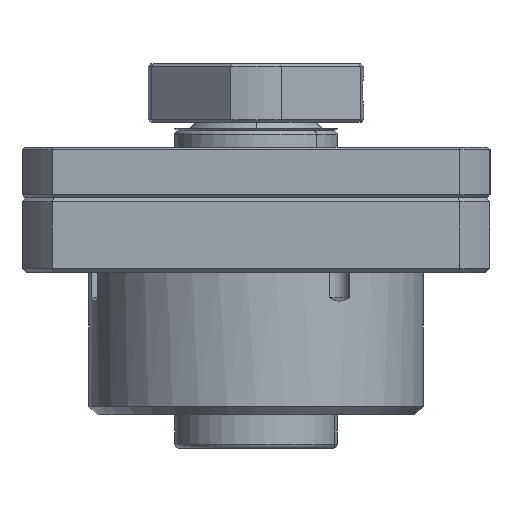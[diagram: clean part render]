
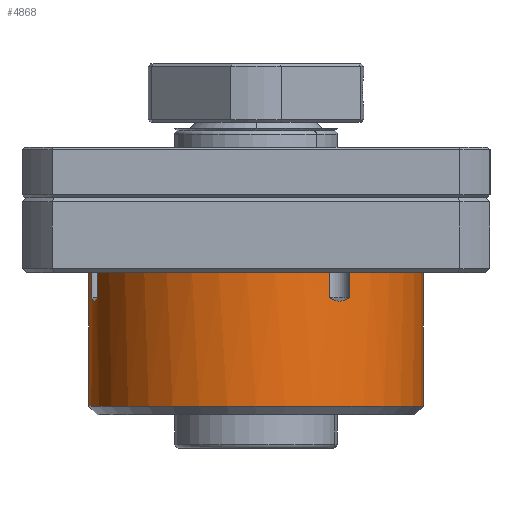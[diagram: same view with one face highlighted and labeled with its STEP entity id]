
A CAD part, front view. The second image highlights one B-rep face of the part: STEP entity #4868.
In plain terms, the highlighted cylindrical face has radius 20 mm (diameter 40 mm), a partial arc.
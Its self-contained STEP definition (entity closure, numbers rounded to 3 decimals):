
#31 = VECTOR ( 'NONE', #6729, 1000. ) ;
#186 = VERTEX_POINT ( 'NONE', #2322 ) ;
#259 = LINE ( 'NONE', #2084, #7073 ) ;
#339 = EDGE_CURVE ( 'NONE', #8102, #2557, #7473, .T. ) ;
#394 = VECTOR ( 'NONE', #1404, 1000. ) ;
#735 = AXIS2_PLACEMENT_3D ( 'NONE', #5386, #5364, #5349 ) ;
#1101 = DIRECTION ( 'NONE',  ( 0., 0., 1. ) ) ;
#1161 = CARTESIAN_POINT ( 'NONE',  ( -20., 0., -25. ) ) ;
#1166 = DIRECTION ( 'NONE',  ( 1., 0., 0. ) ) ;
#1177 = CARTESIAN_POINT ( 'NONE',  ( 0., 0., 29.63 ) ) ;
#1211 = DIRECTION ( 'NONE',  ( 0., 0., 1. ) ) ;
#1297 = DIRECTION ( 'NONE',  ( 0., 0., 1. ) ) ;
#1404 = DIRECTION ( 'NONE',  ( 0., 0., 1. ) ) ;
#1570 = CARTESIAN_POINT ( 'NONE',  ( 8.783, -17.968, -9. ) ) ;
#1629 = CARTESIAN_POINT ( 'NONE',  ( 20., 0., -25. ) ) ;
#1679 = DIRECTION ( 'NONE',  ( 1., 0., 0. ) ) ;
#1719 = VECTOR ( 'NONE', #2890, 1000. ) ;
#1919 = VERTEX_POINT ( 'NONE', #1161 ) ;
#1924 = DIRECTION ( 'NONE',  ( 0., 0., 1. ) ) ;
#1928 = DIRECTION ( 'NONE',  ( 0., 0., 1. ) ) ;
#2014 = CARTESIAN_POINT ( 'NONE',  ( 0., 0., -9. ) ) ;
#2084 = CARTESIAN_POINT ( 'NONE',  ( 20., 0., 29.63 ) ) ;
#2087 = B_SPLINE_CURVE_WITH_KNOTS ( 'NONE', 3,
 ( #3053, #3457, #3005, #2990, #2979, #2967, #2951, #2939, #2931, #2921, #2904, #2892 ),
 .UNSPECIFIED., .F., .F.,
 ( 4, 2, 2, 2, 2, 4 ),
 ( 0., 0.001, 0.001, 0.002, 0.002, 0.003 ),
 .UNSPECIFIED. ) ;
#2144 = LINE ( 'NONE', #5414, #5470 ) ;
#2322 = CARTESIAN_POINT ( 'NONE',  ( -19.629, -3.833, -9. ) ) ;
#2376 = ORIENTED_EDGE ( 'NONE', *, *, #6044, .F. ) ;
#2557 = VERTEX_POINT ( 'NONE', #8007 ) ;
#2680 = ORIENTED_EDGE ( 'NONE', *, *, #7690, .T. ) ;
#2831 = AXIS2_PLACEMENT_3D ( 'NONE', #2014, #1928, #1679 ) ;
#2890 = DIRECTION ( 'NONE',  ( 0., 0., -1. ) ) ;
#2892 = CARTESIAN_POINT ( 'NONE',  ( -18.916, -6.495, -12. ) ) ;
#2904 = CARTESIAN_POINT ( 'NONE',  ( -18.987, -6.288, -12.103 ) ) ;
#2921 = CARTESIAN_POINT ( 'NONE',  ( -19.056, -6.076, -12.2 ) ) ;
#2931 = CARTESIAN_POINT ( 'NONE',  ( -19.156, -5.749, -12.314 ) ) ;
#2939 = CARTESIAN_POINT ( 'NONE',  ( -19.189, -5.638, -12.346 ) ) ;
#2951 = CARTESIAN_POINT ( 'NONE',  ( -19.255, -5.411, -12.392 ) ) ;
#2967 = CARTESIAN_POINT ( 'NONE',  ( -19.287, -5.293, -12.406 ) ) ;
#2979 = CARTESIAN_POINT ( 'NONE',  ( -19.381, -4.944, -12.406 ) ) ;
#2990 = CARTESIAN_POINT ( 'NONE',  ( -19.438, -4.712, -12.352 ) ) ;
#3005 = CARTESIAN_POINT ( 'NONE',  ( -19.541, -4.265, -12.2 ) ) ;
#3023 = CARTESIAN_POINT ( 'NONE',  ( 8.783, -17.968, -12. ) ) ;
#3053 = CARTESIAN_POINT ( 'NONE',  ( -19.629, -3.833, -12. ) ) ;
#3064 = CARTESIAN_POINT ( 'NONE',  ( -18.916, -6.495, -6. ) ) ;
#3116 = ORIENTED_EDGE ( 'NONE', *, *, #339, .F. ) ;
#3121 = EDGE_LOOP ( 'NONE', ( #4012, #2680, #6182, #6391, #3116, #5066, #8485, #6989, #5462, #7394, #2376, #4342 ) ) ;
#3214 = CYLINDRICAL_SURFACE ( 'NONE', #8126, 20. ) ;
#3388 = VERTEX_POINT ( 'NONE', #5144 ) ;
#3457 = CARTESIAN_POINT ( 'NONE',  ( -19.587, -4.048, -12.103 ) ) ;
#3612 = CIRCLE ( 'NONE', #4818, 20. ) ;
#3662 = AXIS2_PLACEMENT_3D ( 'NONE', #5281, #1297, #5920 ) ;
#3674 = CIRCLE ( 'NONE', #3662, 20. ) ;
#3704 = EDGE_CURVE ( 'NONE', #4431, #3837, #3612, .T. ) ;
#3733 = CARTESIAN_POINT ( 'NONE',  ( 11.169, -16.59, -12. ) ) ;
#3837 = VERTEX_POINT ( 'NONE', #1570 ) ;
#4012 = ORIENTED_EDGE ( 'NONE', *, *, #8417, .F. ) ;
#4131 = EDGE_CURVE ( 'NONE', #2557, #6160, #7667, .T. ) ;
#4342 = ORIENTED_EDGE ( 'NONE', *, *, #4512, .F. ) ;
#4386 = CARTESIAN_POINT ( 'NONE',  ( -20., 0., -9. ) ) ;
#4420 = CARTESIAN_POINT ( 'NONE',  ( -18.916, -6.495, -12. ) ) ;
#4431 = VERTEX_POINT ( 'NONE', #6043 ) ;
#4512 = EDGE_CURVE ( 'NONE', #8084, #186, #6997, .T. ) ;
#4818 = AXIS2_PLACEMENT_3D ( 'NONE', #6683, #6292, #6248 ) ;
#4821 = VERTEX_POINT ( 'NONE', #1629 ) ;
#4863 = VECTOR ( 'NONE', #1101, 1000. ) ;
#4868 = ADVANCED_FACE ( 'NONE', ( #6691 ), #3214, .T. ) ;
#5066 = ORIENTED_EDGE ( 'NONE', *, *, #5299, .F. ) ;
#5144 = CARTESIAN_POINT ( 'NONE',  ( -19.629, -3.833, -12. ) ) ;
#5154 = VERTEX_POINT ( 'NONE', #3023 ) ;
#5281 = CARTESIAN_POINT ( 'NONE',  ( 0., 0., -25. ) ) ;
#5299 = EDGE_CURVE ( 'NONE', #5154, #8102, #8090, .T. ) ;
#5349 = DIRECTION ( 'NONE',  ( 1., 0., 0. ) ) ;
#5364 = DIRECTION ( 'NONE',  ( 0., 0., 1. ) ) ;
#5386 = CARTESIAN_POINT ( 'NONE',  ( 0., 0., -9. ) ) ;
#5414 = CARTESIAN_POINT ( 'NONE',  ( 8.783, -17.968, -6. ) ) ;
#5462 = ORIENTED_EDGE ( 'NONE', *, *, #8523, .F. ) ;
#5470 = VECTOR ( 'NONE', #6056, 1000. ) ;
#5677 = CARTESIAN_POINT ( 'NONE',  ( 20., 0., -9. ) ) ;
#5680 = EDGE_CURVE ( 'NONE', #3388, #7626, #2087, .T. ) ;
#5773 = EDGE_CURVE ( 'NONE', #4821, #6160, #259, .T. ) ;
#5920 = DIRECTION ( 'NONE',  ( -1., 0., 0. ) ) ;
#6043 = CARTESIAN_POINT ( 'NONE',  ( -18.916, -6.495, -9. ) ) ;
#6044 = EDGE_CURVE ( 'NONE', #186, #3388, #6766, .T. ) ;
#6056 = DIRECTION ( 'NONE',  ( 0., 0., -1. ) ) ;
#6160 = VERTEX_POINT ( 'NONE', #5677 ) ;
#6182 = ORIENTED_EDGE ( 'NONE', *, *, #5773, .T. ) ;
#6248 = DIRECTION ( 'NONE',  ( 1., 0., 0. ) ) ;
#6292 = DIRECTION ( 'NONE',  ( 0., 0., 1. ) ) ;
#6391 = ORIENTED_EDGE ( 'NONE', *, *, #4131, .F. ) ;
#6683 = CARTESIAN_POINT ( 'NONE',  ( 0., 0., -9. ) ) ;
#6691 = FACE_OUTER_BOUND ( 'NONE', #3121, .T. ) ;
#6729 = DIRECTION ( 'NONE',  ( 0., 0., 1. ) ) ;
#6766 = LINE ( 'NONE', #7497, #1719 ) ;
#6989 = ORIENTED_EDGE ( 'NONE', *, *, #3704, .F. ) ;
#6997 = CIRCLE ( 'NONE', #735, 20. ) ;
#7073 = VECTOR ( 'NONE', #1924, 1000. ) ;
#7263 = CARTESIAN_POINT ( 'NONE',  ( 11.169, -16.59, -12. ) ) ;
#7277 = CARTESIAN_POINT ( 'NONE',  ( 10.988, -16.713, -12.103 ) ) ;
#7300 = CARTESIAN_POINT ( 'NONE',  ( 10.801, -16.834, -12.2 ) ) ;
#7310 = CARTESIAN_POINT ( 'NONE',  ( 10.511, -17.015, -12.314 ) ) ;
#7335 = CARTESIAN_POINT ( 'NONE',  ( 10.413, -17.076, -12.346 ) ) ;
#7338 = CARTESIAN_POINT ( 'NONE',  ( -20., 0., 29.63 ) ) ;
#7350 = CARTESIAN_POINT ( 'NONE',  ( 10.21, -17.198, -12.392 ) ) ;
#7358 = CARTESIAN_POINT ( 'NONE',  ( 10.104, -17.26, -12.406 ) ) ;
#7383 = CARTESIAN_POINT ( 'NONE',  ( 9.792, -17.441, -12.406 ) ) ;
#7394 = ORIENTED_EDGE ( 'NONE', *, *, #5680, .F. ) ;
#7398 = CARTESIAN_POINT ( 'NONE',  ( 9.582, -17.557, -12.352 ) ) ;
#7404 = LINE ( 'NONE', #7338, #394 ) ;
#7419 = CARTESIAN_POINT ( 'NONE',  ( 9.177, -17.772, -12.2 ) ) ;
#7448 = CARTESIAN_POINT ( 'NONE',  ( 8.783, -17.968, -12. ) ) ;
#7458 = CARTESIAN_POINT ( 'NONE',  ( 8.98, -17.872, -12.103 ) ) ;
#7473 = LINE ( 'NONE', #7592, #31 ) ;
#7497 = CARTESIAN_POINT ( 'NONE',  ( -19.629, -3.833, -6. ) ) ;
#7592 = CARTESIAN_POINT ( 'NONE',  ( 11.169, -16.59, -6. ) ) ;
#7626 = VERTEX_POINT ( 'NONE', #4420 ) ;
#7667 = CIRCLE ( 'NONE', #2831, 20. ) ;
#7690 = EDGE_CURVE ( 'NONE', #1919, #4821, #3674, .T. ) ;
#8007 = CARTESIAN_POINT ( 'NONE',  ( 11.169, -16.59, -9. ) ) ;
#8084 = VERTEX_POINT ( 'NONE', #4386 ) ;
#8090 = B_SPLINE_CURVE_WITH_KNOTS ( 'NONE', 3,
 ( #7448, #7458, #7419, #7398, #7383, #7358, #7350, #7335, #7310, #7300, #7277, #7263 ),
 .UNSPECIFIED., .F., .F.,
 ( 4, 2, 2, 2, 2, 4 ),
 ( 0., 0.001, 0.001, 0.002, 0.002, 0.003 ),
 .UNSPECIFIED. ) ;
#8102 = VERTEX_POINT ( 'NONE', #3733 ) ;
#8126 = AXIS2_PLACEMENT_3D ( 'NONE', #1177, #1211, #1166 ) ;
#8306 = LINE ( 'NONE', #3064, #4863 ) ;
#8417 = EDGE_CURVE ( 'NONE', #1919, #8084, #7404, .T. ) ;
#8419 = EDGE_CURVE ( 'NONE', #3837, #5154, #2144, .T. ) ;
#8485 = ORIENTED_EDGE ( 'NONE', *, *, #8419, .F. ) ;
#8523 = EDGE_CURVE ( 'NONE', #7626, #4431, #8306, .T. ) ;
